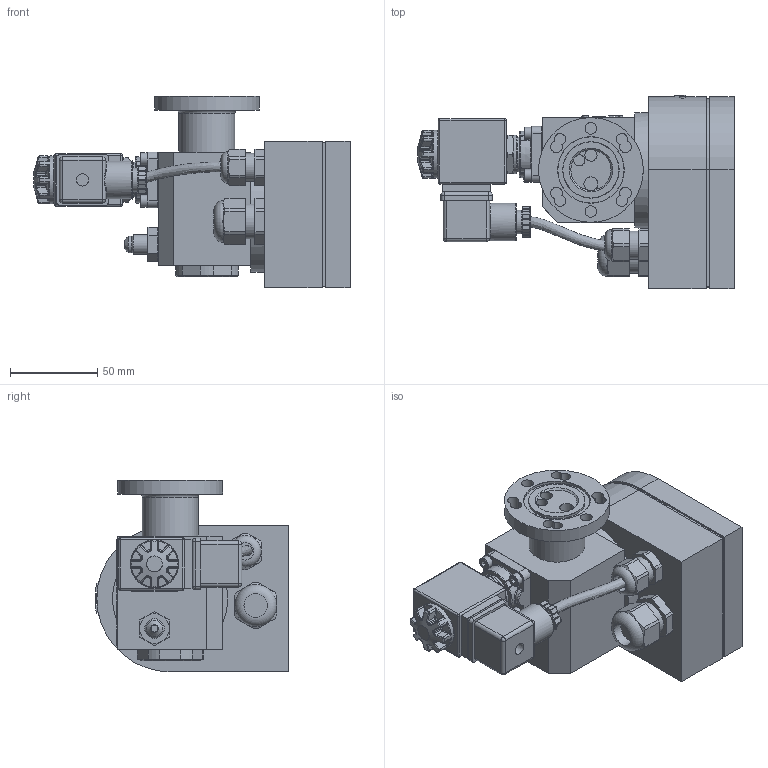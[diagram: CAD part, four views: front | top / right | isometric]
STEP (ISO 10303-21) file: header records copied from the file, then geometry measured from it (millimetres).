
FILE_DESCRIPTION(/* description */ (''),/* implementation_level */ '2;1');
FILE_NAME(/* name */ 'P:\ORE_ERM\ERM5-0-BC\ERM5-0-BC.stp',/* time_stamp */ '2015-07-28T12:36:03+02:00',/* author */ ('neufeld'),/* organization */ (''),/* preprocessor_version */ 'ST-DEVELOPER v15.2',/* originating_system */ 'Autodesk Inventor 2014',/* authorisation */ '');
FILE_SCHEMA (('AUTOMOTIVE_DESIGN { 1 0 10303 214 3 1 1 }'));
Products named in the file (1): ERM5-0-BC_AG-Kunde
Bounding box: 181.11 x 111 x 109.81 mm (x, y, z)
Volume: 805726.5 mm3; surface area: 84157.1 mm2
Topology: 1 solids, 1 shells, 1980 faces, 5036 edges, 3207 vertices
Faces by surface type: plane 925, bspline 585, cylinder 245, torus 113, cone 60, sphere 52
Full cylindrical faces by diameter (mm): 4 x1, 6.4 x1, 6.7 x2, 7 x6, 8 x1, 9.1 x1, 9.4 x1, 10 x1, 10.5 x1, 11.112 x1, 13.5 x2, 16 x1, 20 x2, 20.5 x1, 21.5 x1, 22 x1, 24.2 x1, 27.5 x1, 32 x1, 32.35 x1, 37.95 x1, 60 x1, 66 x1
Entity records: 72904 total; most frequent: CARTESIAN_POINT 28527, ORIENTED_EDGE 9900, DIRECTION 7312, EDGE_CURVE 4944, VERTEX_POINT 3164, LINE 2814, VECTOR 2814, AXIS2_PLACEMENT_3D 2249
